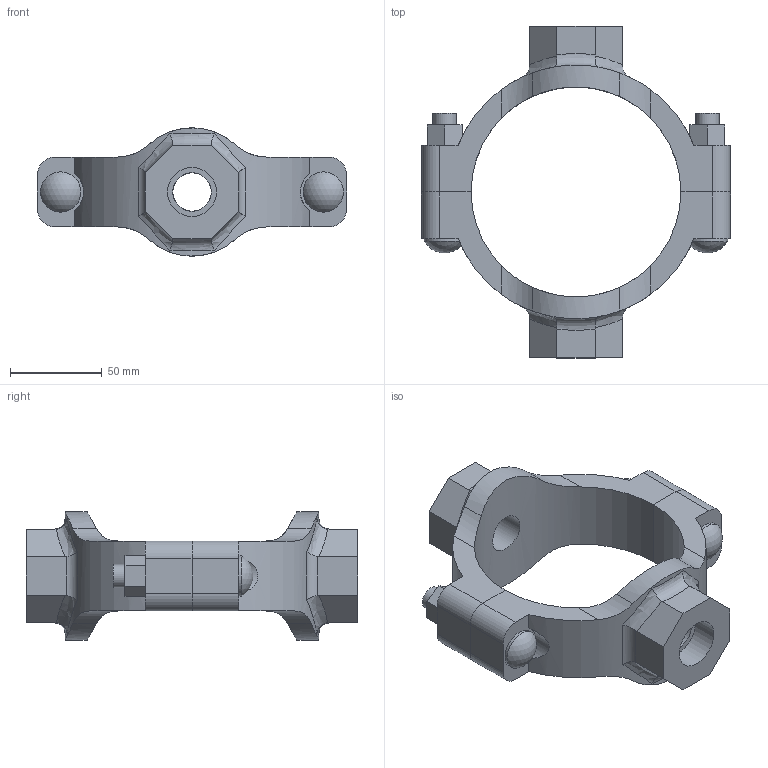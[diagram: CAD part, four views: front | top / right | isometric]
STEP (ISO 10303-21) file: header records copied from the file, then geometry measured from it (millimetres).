
FILE_DESCRIPTION(/* description */ ('VIC MECH-T BRANCH OUTLET CROSS STYLE 920N (THD)','CAx-IF Rec.Pracs.---Representation and Presentation of Product Manufacturing Information (PMI)---4.0---2014-10-13'),/* implementation_level */ '2;1');
FILE_NAME(/* name */ 'C:\Users\Vjadhav\AppData\Roaming\Autodesk\ApplicationPlugins\Back Up\Victaulic_IPS_Mechanical-Cross Outlet_Style 920N (FPT)\Victaulic_IPS_Mechanical-Cross Outlet_04.0x0.75x0.75 (100x20x20).stp',/* time_stamp */ '2020-08-06T18:58:06+05:00',/* author */ ('Vjadhav'),/* organization */ ('Victaulic'),/* preprocessor_version */ 'ST-DEVELOPER v17.2',/* originating_system */ 'Autodesk Inventor 2019',/* authorisation */ '');
FILE_SCHEMA (('AP242_MANAGED_MODEL_BASED_3D_ENGINEERING_MIM_LF { 1 0 10303 442 1 1 4 }'));
Length unit declared in the file: inch
Products named in the file (3): 920NT-04.0x0.75x0.75; 920NT-04.0x0.75; 920NT-04.0x0.75_1
Assembly tree (2 placements, depth 2):
  920NT-04.0x0.75x0.75
    920NT-04.0x0.75
    920NT-04.0x0.75_1
Bounding box: 168.4 x 180.85 x 69.82 mm (x, y, z)
Volume: 344119.1 mm3; surface area: 78508.8 mm2
Topology: 2 solids, 2 shells, 132 faces, 350 edges, 236 vertices
Faces by surface type: plane 68, cylinder 50, bspline 8, torus 4, sphere 2
Full cylindrical faces by diameter (mm): 12.7 x4, 20.93 x2, 21.982 x2, 26.67 x2
Entity records: 5234 total; most frequent: CARTESIAN_POINT 1721, ORIENTED_EDGE 700, DIRECTION 648, EDGE_CURVE 350, VERTEX_POINT 236, AXIS2_PLACEMENT_3D 231, LINE 186, VECTOR 186
